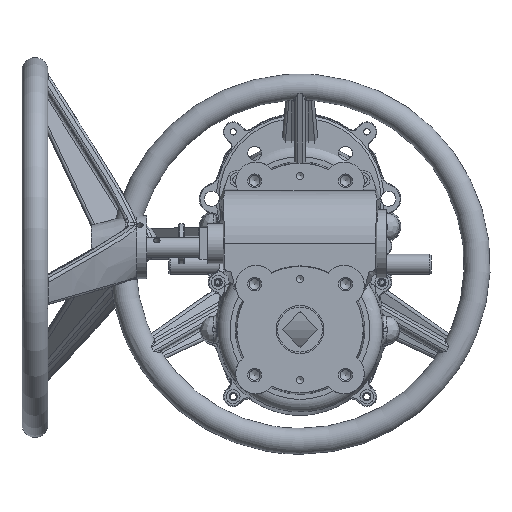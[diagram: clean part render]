
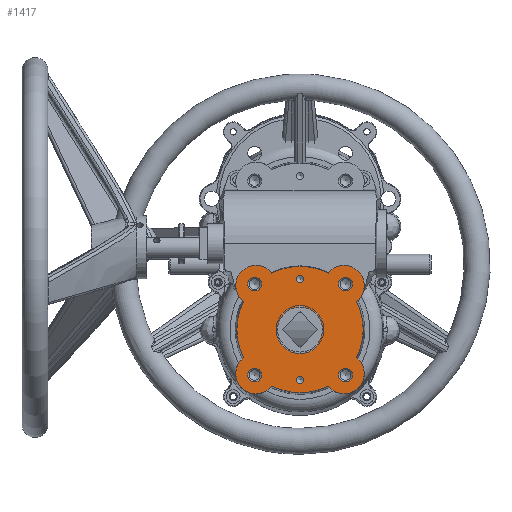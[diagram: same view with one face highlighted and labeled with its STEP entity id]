
A CAD part, top view. The second image highlights one B-rep face of the part: STEP entity #1417.
In plain terms, the highlighted planar face has unit normal (0, 0, 1).
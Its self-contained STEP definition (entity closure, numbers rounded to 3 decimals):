
#1417 = ADVANCED_FACE( '', ( #3170, #3171, #3172, #3173, #3174, #3175, #3176, #3177 ), #3178, .F. );
#3170 = FACE_BOUND( '', #8280, .T. );
#3171 = FACE_BOUND( '', #8281, .T. );
#3172 = FACE_BOUND( '', #8282, .T. );
#3173 = FACE_BOUND( '', #8283, .T. );
#3174 = FACE_BOUND( '', #8284, .T. );
#3175 = FACE_BOUND( '', #8285, .T. );
#3176 = FACE_OUTER_BOUND( '', #8286, .T. );
#3177 = FACE_BOUND( '', #8287, .T. );
#3178 = PLANE( '', #8288 );
#8280 = EDGE_LOOP( '', ( #13123 ) );
#8281 = EDGE_LOOP( '', ( #13124 ) );
#8282 = EDGE_LOOP( '', ( #13125 ) );
#8283 = EDGE_LOOP( '', ( #13126 ) );
#8284 = EDGE_LOOP( '', ( #13127 ) );
#8285 = EDGE_LOOP( '', ( #13128 ) );
#8286 = EDGE_LOOP( '', ( #13129, #13130, #13131, #13132, #13133, #13134, #13135, #13136 ) );
#8287 = EDGE_LOOP( '', ( #13137 ) );
#8288 = AXIS2_PLACEMENT_3D( '', #13138, #13139, #13140 );
#13123 = ORIENTED_EDGE( '', *, *, #15477, .T. );
#13124 = ORIENTED_EDGE( '', *, *, #15948, .T. );
#13125 = ORIENTED_EDGE( '', *, *, #16169, .T. );
#13126 = ORIENTED_EDGE( '', *, *, #15086, .T. );
#13127 = ORIENTED_EDGE( '', *, *, #16170, .T. );
#13128 = ORIENTED_EDGE( '', *, *, #15630, .T. );
#13129 = ORIENTED_EDGE( '', *, *, #14809, .F. );
#13130 = ORIENTED_EDGE( '', *, *, #15091, .F. );
#13131 = ORIENTED_EDGE( '', *, *, #14892, .F. );
#13132 = ORIENTED_EDGE( '', *, *, #16171, .F. );
#13133 = ORIENTED_EDGE( '', *, *, #16172, .T. );
#13134 = ORIENTED_EDGE( '', *, *, #15545, .T. );
#13135 = ORIENTED_EDGE( '', *, *, #16173, .T. );
#13136 = ORIENTED_EDGE( '', *, *, #15700, .F. );
#13137 = ORIENTED_EDGE( '', *, *, #15857, .F. );
#13138 = CARTESIAN_POINT( '', ( 276.883, 104.472, 40.5 ) );
#13139 = DIRECTION( '', ( 0., 0., -1. ) );
#13140 = DIRECTION( '', ( 0., 1., 0. ) );
#14809 = EDGE_CURVE( '', #16732, #16735, #16736, .T. );
#14892 = EDGE_CURVE( '', #16877, #16880, #16881, .T. );
#15086 = EDGE_CURVE( '', #17219, #17219, #17220, .T. );
#15091 = EDGE_CURVE( '', #16880, #16732, #17227, .T. );
#15477 = EDGE_CURVE( '', #17815, #17815, #17816, .T. );
#15545 = EDGE_CURVE( '', #17915, #17916, #17917, .T. );
#15630 = EDGE_CURVE( '', #18053, #18053, #18054, .T. );
#15700 = EDGE_CURVE( '', #16735, #18148, #18149, .T. );
#15857 = EDGE_CURVE( '', #18369, #18369, #18370, .T. );
#15948 = EDGE_CURVE( '', #18497, #18497, #18498, .T. );
#16169 = EDGE_CURVE( '', #18792, #18792, #18793, .T. );
#16170 = EDGE_CURVE( '', #18794, #18794, #18795, .T. );
#16171 = EDGE_CURVE( '', #18796, #16877, #18797, .T. );
#16172 = EDGE_CURVE( '', #18796, #17915, #18798, .T. );
#16173 = EDGE_CURVE( '', #17916, #18148, #18799, .T. );
#16732 = VERTEX_POINT( '', #19812 );
#16735 = VERTEX_POINT( '', #19818 );
#16736 = CIRCLE( '', #19819, 16. );
#16877 = VERTEX_POINT( '', #20493 );
#16880 = VERTEX_POINT( '', #20499 );
#16881 = CIRCLE( '', #20500, 16. );
#17219 = VERTEX_POINT( '', #22992 );
#17220 = CIRCLE( '', #22993, 5.5 );
#17227 = CIRCLE( '', #23000, 50.105 );
#17815 = VERTEX_POINT( '', #25855 );
#17816 = CIRCLE( '', #25856, 3. );
#17915 = VERTEX_POINT( '', #26195 );
#17916 = VERTEX_POINT( '', #26196 );
#17917 = CIRCLE( '', #26197, 50.105 );
#18053 = VERTEX_POINT( '', #26493 );
#18054 = CIRCLE( '', #26494, 5.5 );
#18148 = VERTEX_POINT( '', #26937 );
#18149 = CIRCLE( '', #26938, 50.105 );
#18369 = VERTEX_POINT( '', #27814 );
#18370 = CIRCLE( '', #27815, 17.85 );
#18497 = VERTEX_POINT( '', #28267 );
#18498 = CIRCLE( '', #28268, 3. );
#18792 = VERTEX_POINT( '', #29576 );
#18793 = CIRCLE( '', #29577, 5.5 );
#18794 = VERTEX_POINT( '', #29578 );
#18795 = CIRCLE( '', #29579, 5.5 );
#18796 = VERTEX_POINT( '', #29580 );
#18797 = CIRCLE( '', #29581, 50.105 );
#18798 = CIRCLE( '', #29582, 16. );
#18799 = CIRCLE( '', #29583, 16. );
#19812 = CARTESIAN_POINT( '', ( 44.835, 7.632, 40.5 ) );
#19818 = CARTESIAN_POINT( '', ( 22.368, -14.835, 40.5 ) );
#19819 = AXIS2_PLACEMENT_3D( '', #31013, #31014, #31015 );
#20493 = CARTESIAN_POINT( '', ( 22.368, 74.835, 40.5 ) );
#20499 = CARTESIAN_POINT( '', ( 44.835, 52.368, 40.5 ) );
#20500 = AXIS2_PLACEMENT_3D( '', #31130, #31131, #31132 );
#22992 = CARTESIAN_POINT( '', ( -36.065, -0.565, 40.5 ) );
#22993 = AXIS2_PLACEMENT_3D( '', #31406, #31407, #31408 );
#23000 = AXIS2_PLACEMENT_3D( '', #31415, #31416, #31417 );
#25855 = CARTESIAN_POINT( '', ( 0., 67., 40.5 ) );
#25856 = AXIS2_PLACEMENT_3D( '', #31911, #31912, #31913 );
#26195 = CARTESIAN_POINT( '', ( -44.835, 52.368, 40.5 ) );
#26196 = CARTESIAN_POINT( '', ( -44.835, 7.632, 40.5 ) );
#26197 = AXIS2_PLACEMENT_3D( '', #32008, #32009, #32010 );
#26493 = CARTESIAN_POINT( '', ( 36.065, 71.565, 40.5 ) );
#26494 = AXIS2_PLACEMENT_3D( '', #32152, #32153, #32154 );
#26937 = CARTESIAN_POINT( '', ( -22.368, -14.835, 40.5 ) );
#26938 = AXIS2_PLACEMENT_3D( '', #32233, #32234, #32235 );
#27814 = CARTESIAN_POINT( '', ( 17.85, 30., 40.5 ) );
#27815 = AXIS2_PLACEMENT_3D( '', #32443, #32444, #32445 );
#28267 = CARTESIAN_POINT( '', ( 0., -13., 40.5 ) );
#28268 = AXIS2_PLACEMENT_3D( '', #32550, #32551, #32552 );
#29576 = CARTESIAN_POINT( '', ( 36.065, -0.565, 40.5 ) );
#29577 = AXIS2_PLACEMENT_3D( '', #32823, #32824, #32825 );
#29578 = CARTESIAN_POINT( '', ( -36.065, 71.565, 40.5 ) );
#29579 = AXIS2_PLACEMENT_3D( '', #32826, #32827, #32828 );
#29580 = CARTESIAN_POINT( '', ( -22.368, 74.835, 40.5 ) );
#29581 = AXIS2_PLACEMENT_3D( '', #32829, #32830, #32831 );
#29582 = AXIS2_PLACEMENT_3D( '', #32832, #32833, #32834 );
#29583 = AXIS2_PLACEMENT_3D( '', #32835, #32836, #32837 );
#31013 = CARTESIAN_POINT( '', ( 34.95, -4.95, 40.5 ) );
#31014 = DIRECTION( '', ( 0., 0., -1. ) );
#31015 = DIRECTION( '', ( 0., 1., 0. ) );
#31130 = CARTESIAN_POINT( '', ( 34.95, 64.95, 40.5 ) );
#31131 = DIRECTION( '', ( 0., 0., -1. ) );
#31132 = DIRECTION( '', ( 0., 1., 0. ) );
#31406 = CARTESIAN_POINT( '', ( -36.065, -6.065, 40.5 ) );
#31407 = DIRECTION( '', ( 0., 0., -1. ) );
#31408 = DIRECTION( '', ( 0., 1., 0. ) );
#31415 = CARTESIAN_POINT( '', ( 0., 30., 40.5 ) );
#31416 = DIRECTION( '', ( 0., 0., -1. ) );
#31417 = DIRECTION( '', ( 0., 1., 0. ) );
#31911 = CARTESIAN_POINT( '', ( 0., 70., 40.5 ) );
#31912 = DIRECTION( '', ( 0., 0., -1. ) );
#31913 = DIRECTION( '', ( 0., -1., 0. ) );
#32008 = CARTESIAN_POINT( '', ( 0., 30., 40.5 ) );
#32009 = DIRECTION( '', ( 0., 0., 1. ) );
#32010 = DIRECTION( '', ( 0., -1., 0. ) );
#32152 = CARTESIAN_POINT( '', ( 36.065, 66.065, 40.5 ) );
#32153 = DIRECTION( '', ( 0., 0., -1. ) );
#32154 = DIRECTION( '', ( 0., 1., 0. ) );
#32233 = CARTESIAN_POINT( '', ( 0., 30., 40.5 ) );
#32234 = DIRECTION( '', ( 0., 0., -1. ) );
#32235 = DIRECTION( '', ( 0., 1., 0. ) );
#32443 = CARTESIAN_POINT( '', ( 0., 30., 40.5 ) );
#32444 = DIRECTION( '', ( 0., 0., 1. ) );
#32445 = DIRECTION( '', ( 1., 0., 0. ) );
#32550 = CARTESIAN_POINT( '', ( 0., -10., 40.5 ) );
#32551 = DIRECTION( '', ( 0., 0., -1. ) );
#32552 = DIRECTION( '', ( 0., -1., 0. ) );
#32823 = CARTESIAN_POINT( '', ( 36.065, -6.065, 40.5 ) );
#32824 = DIRECTION( '', ( 0., 0., -1. ) );
#32825 = DIRECTION( '', ( 0., 1., 0. ) );
#32826 = CARTESIAN_POINT( '', ( -36.065, 66.065, 40.5 ) );
#32827 = DIRECTION( '', ( 0., 0., -1. ) );
#32828 = DIRECTION( '', ( 0., 1., 0. ) );
#32829 = CARTESIAN_POINT( '', ( 0., 30., 40.5 ) );
#32830 = DIRECTION( '', ( 0., 0., -1. ) );
#32831 = DIRECTION( '', ( 0., 1., 0. ) );
#32832 = CARTESIAN_POINT( '', ( -34.95, 64.95, 40.5 ) );
#32833 = DIRECTION( '', ( 0., 0., 1. ) );
#32834 = DIRECTION( '', ( 0., -1., 0. ) );
#32835 = CARTESIAN_POINT( '', ( -34.95, -4.95, 40.5 ) );
#32836 = DIRECTION( '', ( 0., 0., 1. ) );
#32837 = DIRECTION( '', ( 0., -1., 0. ) );
